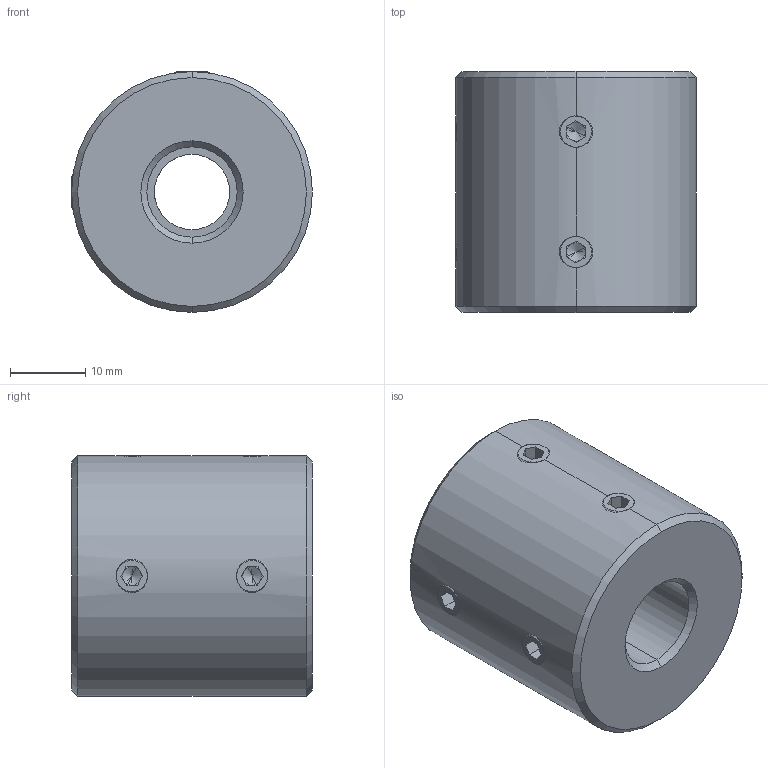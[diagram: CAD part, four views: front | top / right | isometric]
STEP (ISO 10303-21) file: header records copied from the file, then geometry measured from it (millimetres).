
FILE_DESCRIPTION (( 'STEP AP214' ), '1' );
FILE_NAME ('LL-D-D32L32-10-12½¨Ä£.STEP', '2022-07-22T11:28:58', ( '' ), ( '' ), 'SwSTEP 2.0', 'SolidWorks 2022', '' );
FILE_SCHEMA (( 'AUTOMOTIVE_DESIGN' ));
Length unit declared in the file: millimetre
Products named in the file (1): LL-D-D32L32-10-12膘耀
Bounding box: 32 x 32 x 32 mm (x, y, z)
Volume: 22389.9 mm3; surface area: 5889.3 mm2
Topology: 1 solids, 1 shells, 113 faces, 286 edges, 176 vertices
Faces by surface type: plane 59, cone 32, cylinder 22
Entity records: 3756 total; most frequent: CARTESIAN_POINT 1046, DIRECTION 558, ORIENTED_EDGE 556, EDGE_CURVE 278, AXIS2_PLACEMENT_3D 206, VERTEX_POINT 176, VECTOR 146, LINE 146
